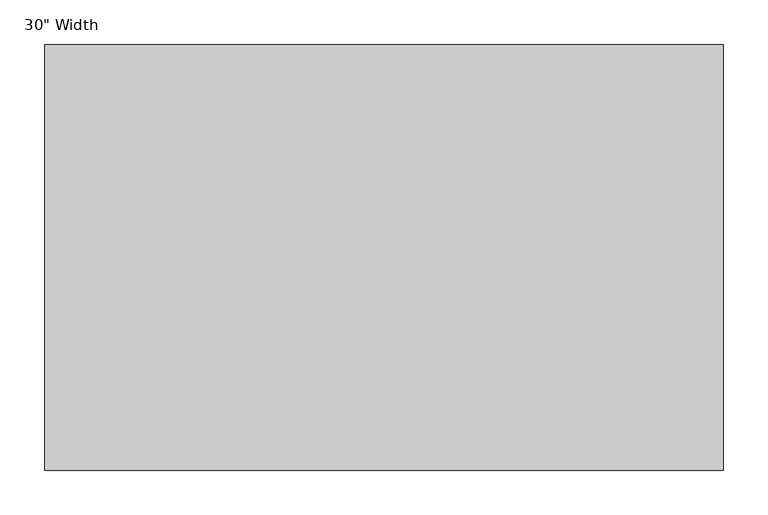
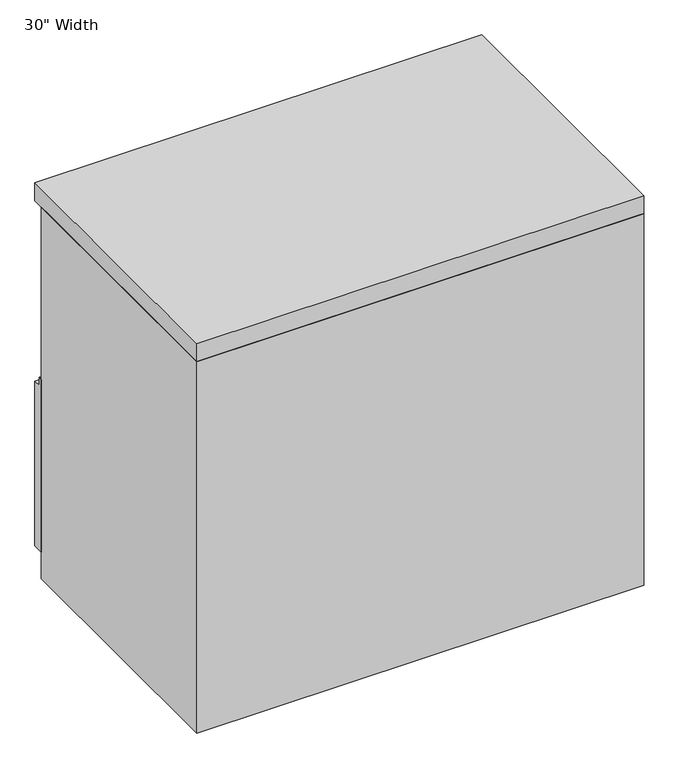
"""IFC4 building model written with IfcOpenShell, lengths in millimetres: furniture geometry."""

from ifc_helpers import new_model, si_unit, frame, origin, place, context, project, spatial, polyline, outline, extrude, faceted_brep, source, transform, mapped, element, save


def furniture_8c20b5aa(model_context):
    return source(origin(), model_context, "Body", "SolidModel", [
        extrude(outline(polyline([(457.2, 47.625), (457.2, 357.1875), (463.55, 357.1875), (463.55, 342.9), (476.25, 342.9), (476.25, 47.625), (457.2, 47.625)])), frame((-379.4125, 0.0, 0.0), z_axis=(1.0, 0.0, 0.0), x_axis=(0.0, 1.0, 0.0)), (0.0, 0.0, 1.0), 758.825),
        faceted_brep([(379.4125, 0.0, 666.75), (379.4125, 457.2, 666.75), (360.3625, 457.2, 666.75), (360.3625, 19.05, 666.75), (-360.3625, 19.05, 666.75), (-360.3625, 457.2, 666.75), (-379.4125, 457.2, 666.75), (-379.4125, 0.0, 666.75), (-379.4125, 0.0, 0.0), (379.4125, 0.0, 0.0), (-379.4125, 457.2, 0.0), (379.4125, 457.2, 0.0), (-360.3625, 457.2, 47.625), (360.3625, 457.2, 47.625), (-360.3625, 19.05, 47.625), (360.3625, 19.05, 47.625)], [[[0, 1, 2, 3, 4, 5, 6, 7]], [[7, 8, 9, 0]], [[6, 10, 8, 7]], [[9, 11, 1, 0]], [[5, 12, 13, 2, 1, 11, 10, 6]], [[4, 14, 12, 5]], [[3, 15, 14, 4]], [[2, 13, 15, 3]], [[12, 14, 15, 13]], [[9, 8, 10, 11]]]),
        extrude(outline(polyline([(360.3625, 19.05), (-360.3625, 19.05), (-360.3625, 457.2), (360.3625, 457.2), (360.3625, 19.05)])), frame((0.0, 0.0, 347.6625), z_axis=(0.0, 0.0, 1.0), x_axis=(1.0, 0.0, 0.0)), (0.0, 0.0, 1.0), 19.05),
        extrude(outline(polyline([(379.4125, 0.0), (-379.4125, 0.0), (-379.4125, 476.25), (379.4125, 476.25), (379.4125, 0.0)])), frame((0.0, 0.0, 666.75), z_axis=(0.0, 0.0, 1.0), x_axis=(1.0, 0.0, 0.0)), (0.0, 0.0, 1.0), 31.75),
    ])


if __name__ == "__main__":
    model = new_model("IFC4")
    model_context = context("Model", 3, world=origin())
    ifc_project = project(units=[si_unit("LENGTHUNIT", "METRE", prefix="MILLI")], contexts=[model_context])
    site = spatial("IfcSite", under=ifc_project)
    building = spatial("IfcBuilding", under=site)
    placement = place(None, origin())
    furniture_shape = furniture_8c20b5aa(model_context)
    element("IfcFurniture", 1, ObjectType="Haworth_XSeries-Combo-Open_Shelf : 30\" Width", at=placement, inside=building, context=model_context, shape_type="MappedRepresentation", body=[
        mapped(furniture_shape, transform((0.0, 0.0, 0.0), x_axis=(1.0, 0.0, 0.0), y_axis=(0.0, 1.0, 0.0), z_axis=(0.0, 0.0, 1.0))),
    ])
    save(model, "model.ifc")
